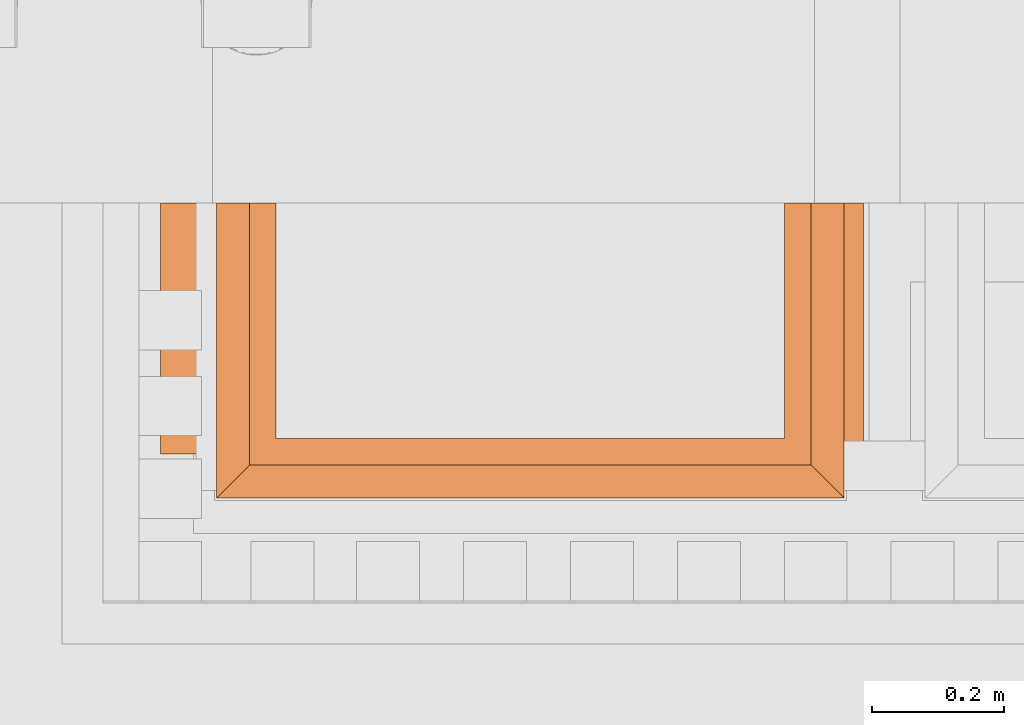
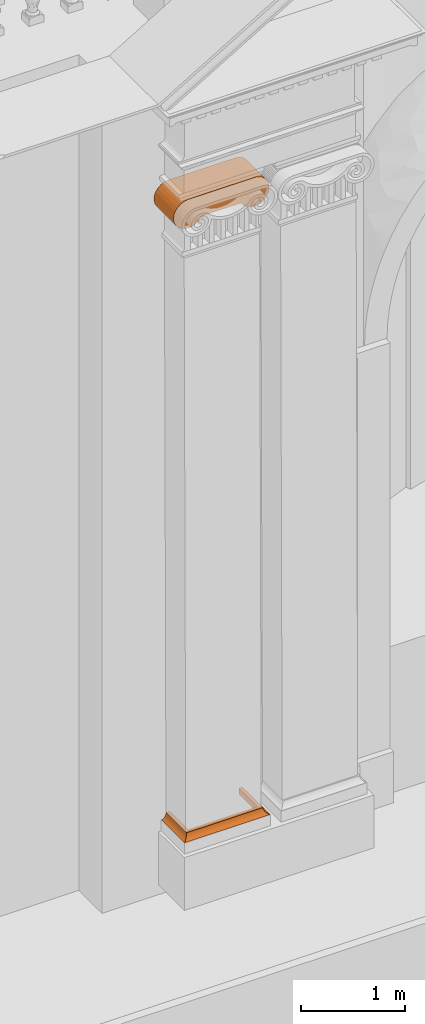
# One storey, part 27 of 44: 2 proxies.
"""IFC2X3 building model written with IfcOpenShell, lengths in metres."""

from ifc_helpers import new_model, entity, si_unit, converted_unit, derived_unit, direction, frame, origin, place, context, subcontext, project, spatial, faceted_brep, material, element, save


model = new_model("IFC2X3")

# Units and contexts
model_context = context("Model", 3, precision=1e-05, world=origin(), true_north=direction((6.12303176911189e-17, 1.0)))
body_context = subcontext(model_context, "Body", "Model", "MODEL_VIEW")
ifc_project = project(units=[si_unit("LENGTHUNIT", "METRE"), si_unit("AREAUNIT", "SQUARE_METRE"), si_unit("VOLUMEUNIT", "CUBIC_METRE"), converted_unit("PLANEANGLEUNIT", "DEGREE", entity("IfcRatioMeasure", 0.0174532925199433), si_unit("PLANEANGLEUNIT", "RADIAN"), dimensions=[0, 0, 0, 0, 0, 0, 0]), si_unit("MASSUNIT", "GRAM", prefix="KILO"), derived_unit("MASSDENSITYUNIT", [(si_unit("MASSUNIT", "GRAM", prefix="KILO"), 1), (si_unit("LENGTHUNIT", "METRE"), -3)]), si_unit("TIMEUNIT", "SECOND"), si_unit("FREQUENCYUNIT", "HERTZ"), si_unit("THERMODYNAMICTEMPERATUREUNIT", "DEGREE_CELSIUS"), derived_unit("THERMALTRANSMITTANCEUNIT", [(si_unit("MASSUNIT", "GRAM", prefix="KILO"), 1), (si_unit("THERMODYNAMICTEMPERATUREUNIT", "KELVIN"), -1), (si_unit("TIMEUNIT", "SECOND"), -3)]), derived_unit("VOLUMETRICFLOWRATEUNIT", [(si_unit("LENGTHUNIT", "METRE"), 3), (si_unit("TIMEUNIT", "SECOND"), -1)]), si_unit("ELECTRICCURRENTUNIT", "AMPERE"), si_unit("ELECTRICVOLTAGEUNIT", "VOLT"), si_unit("POWERUNIT", "WATT"), si_unit("FORCEUNIT", "NEWTON", prefix="KILO"), si_unit("ILLUMINANCEUNIT", "LUX"), si_unit("LUMINOUSFLUXUNIT", "LUMEN"), si_unit("LUMINOUSINTENSITYUNIT", "CANDELA"), derived_unit("USERDEFINED", [(si_unit("MASSUNIT", "GRAM", prefix="KILO"), -1), (si_unit("LENGTHUNIT", "METRE"), -2), (si_unit("TIMEUNIT", "SECOND"), 3), (si_unit("LUMINOUSFLUXUNIT", "LUMEN"), 1)]), derived_unit("LINEARVELOCITYUNIT", [(si_unit("LENGTHUNIT", "METRE"), 1), (si_unit("TIMEUNIT", "SECOND"), -1)]), si_unit("PRESSUREUNIT", "PASCAL"), derived_unit("USERDEFINED", [(si_unit("LENGTHUNIT", "METRE"), -2), (si_unit("MASSUNIT", "GRAM", prefix="KILO"), 1), (si_unit("TIMEUNIT", "SECOND"), -2)])], contexts=[model_context])

# Site, building, storey
site_placement = place(None, origin())
site = spatial("IfcSite", under=ifc_project, at=site_placement, Name="Default", CompositionType="ELEMENT")
building_placement = place(site_placement, origin())
building = spatial("IfcBuilding", under=site, at=building_placement, CompositionType="ELEMENT")
storey_placement = place(building_placement, origin())
storey = spatial("IfcBuildingStorey", under=building, at=storey_placement, Name="Livello 1", CompositionType="ELEMENT", Elevation=0.0)

# Proxies
ifc_material = material(Name="Travertino")
proxy_1_placement = place(storey_placement, frame((-4.94290918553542, 0.883372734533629, 21.2505882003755)))
element("IfcBuildingElementProxy", 1, at=proxy_1_placement, inside=storey, material=ifc_material, Name="Stratigrafia", context=body_context, shape_type="Brep", body=[
    faceted_brep([(0.202441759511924, 0.195, 0.00495230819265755), (0.202228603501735, 0.195, 0.00475895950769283), (0.219471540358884, 0.195, 0.00918128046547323), (0.236149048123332, 0.195, 0.0154051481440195), (0.235377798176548, 0.195, 0.0155005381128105), (0.234604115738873, 0.195, 0.0155817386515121), (0.23276441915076, 0.195, 0.0157169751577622), (0.230920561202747, 0.195, 0.0157713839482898), (0.228992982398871, 0.195, 0.0157417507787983), (0.227068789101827, 0.195, 0.0156237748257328), (0.225151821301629, 0.195, 0.0154176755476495), (0.223246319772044, 0.195, 0.015123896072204), (0.221437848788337, 0.195, 0.0147613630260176), (0.219647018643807, 0.195, 0.0143198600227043), (0.21684041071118, 0.195, 0.0134560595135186), (0.214100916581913, 0.195, 0.0123985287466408), (0.21130606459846, 0.195, 0.0110826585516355), (0.208615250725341, 0.195, 0.00956534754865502), (0.205538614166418, 0.195, 0.00748647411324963), (0.202656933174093, 0.195, 0.00514482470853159), (0.235311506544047, 0.14769119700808, 0.015508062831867), (0.234604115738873, 0.15122943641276, 0.0155817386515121), (0.23535053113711, 0.153479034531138, 0.0155036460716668), (0.235306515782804, 0.158497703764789, 0.0155086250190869), (0.236149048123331, 0.1625, 0.0154051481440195), (0.236149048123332, 0.1584375, 0.0154051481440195), (0.236149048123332, 0.154375, 0.0154051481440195), (0.23614904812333, 0.187923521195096, 0.0154051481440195), (0.235377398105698, 0.184385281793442, 0.0155005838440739), (0.235447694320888, 0.189692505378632, 0.0154924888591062), (0.235285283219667, 0.163523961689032, 0.0155110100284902), (0.234604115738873, 0.16747943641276, 0.0155817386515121), (0.235367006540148, 0.169772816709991, 0.0155017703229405), (0.234604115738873, 0.187923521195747, 0.0155817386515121), (0.236149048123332, 0.14625, 0.0154051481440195), (0.235377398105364, 0.140614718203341, 0.0155005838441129), (0.234604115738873, 0.144152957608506, 0.0155817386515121), (0.234604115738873, 0.137076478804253, 0.0155817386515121), (0.234604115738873, 0.182288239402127, 0.0155817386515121), (0.235392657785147, 0.17846167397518, 0.015498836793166), (0.234604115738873, 0.172066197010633, 0.0155817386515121), (0.236149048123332, 0.137076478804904, 0.0154051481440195), (0.235307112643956, 0.135307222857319, 0.0155085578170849), (0.236149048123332, 0.13, 0.0154051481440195), (0.23614904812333, 0.180847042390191, 0.0154051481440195), (0.23537779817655, 0.13, 0.0155005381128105), (0.234604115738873, 0.13, 0.0155817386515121), (0.234604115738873, 0.176652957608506, 0.0155817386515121), (0.234604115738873, 0.18084967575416, 0.0155817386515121), (0.23614904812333, 0.171673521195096, 0.0154051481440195), (0.234604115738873, 0.158305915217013, 0.0155817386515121), (0.234604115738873, 0.1625, 0.0155817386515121), (0.232764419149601, 0.151225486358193, 0.0157169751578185), (0.232651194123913, 0.1654432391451, 0.0157226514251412), (0.230920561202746, 0.158300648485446, 0.0157713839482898), (0.23276441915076, 0.13, 0.0157169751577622), (0.230920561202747, 0.13, 0.0157713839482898), (0.230920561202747, 0.144150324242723, 0.0157713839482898), (0.232764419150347, 0.181836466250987, 0.0157169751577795), (0.230920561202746, 0.180849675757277, 0.0157713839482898), (0.230920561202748, 0.1625, 0.0157713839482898), (0.228992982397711, 0.151224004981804, 0.015741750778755), (0.228865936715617, 0.166307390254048, 0.0157366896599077), (0.227068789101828, 0.158298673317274, 0.0156237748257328), (0.228992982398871, 0.13, 0.0157417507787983), (0.227068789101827, 0.13, 0.0156237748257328), (0.227068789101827, 0.144149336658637, 0.0156237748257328), (0.228992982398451, 0.181275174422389, 0.015741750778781), (0.227068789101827, 0.180850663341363, 0.0156237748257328), (0.227068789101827, 0.1625, 0.0156237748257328), (0.225151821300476, 0.151224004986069, 0.0154176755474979), (0.225025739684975, 0.16630961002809, 0.0154009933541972), (0.223246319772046, 0.15829867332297, 0.015123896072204), (0.225151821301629, 0.13, 0.0154176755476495), (0.223246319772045, 0.13, 0.015123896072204), (0.223246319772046, 0.144149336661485, 0.015123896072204), (0.225151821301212, 0.181273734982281, 0.0154176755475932), (0.223246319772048, 0.180850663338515, 0.015123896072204), (0.223246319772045, 0.1625, 0.015123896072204), (0.221437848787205, 0.15122548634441, 0.014761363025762), (0.221327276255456, 0.165441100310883, 0.0147365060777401), (0.219647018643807, 0.158300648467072, 0.0143198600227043), (0.221437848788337, 0.13, 0.0147613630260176), (0.219647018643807, 0.13, 0.0143198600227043), (0.219647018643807, 0.144150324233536, 0.0143198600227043), (0.221437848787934, 0.181837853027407, 0.0147613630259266), (0.219647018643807, 0.180849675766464, 0.0143198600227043), (0.219647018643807, 0.1625, 0.0143198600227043), (0.217295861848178, 0.150768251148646, 0.0136109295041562), (0.21684041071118, 0.13, 0.0134560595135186), (0.216694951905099, 0.171325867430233, 0.0134053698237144), (0.214100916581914, 0.158305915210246, 0.0123985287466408), (0.214100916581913, 0.166683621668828, 0.0123985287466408), (0.214100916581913, 0.13, 0.0123985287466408), (0.211306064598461, 0.13, 0.0110826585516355), (0.208615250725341, 0.13, 0.00956534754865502), (0.211427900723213, 0.154345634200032, 0.0111453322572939), (0.210711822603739, 0.174546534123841, 0.0107697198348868), (0.208615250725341, 0.1625, 0.00956534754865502), (0.208615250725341, 0.166667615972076, 0.00956534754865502), (0.202656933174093, 0.158332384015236, 0.00514482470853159), (0.202656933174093, 0.16046875, 0.00514482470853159), (0.202656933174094, 0.1625, 0.00514482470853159), (0.202656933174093, 0.164790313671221, 0.00514482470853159), (0.202656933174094, 0.167080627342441, 0.00514482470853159), (0.202656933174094, 0.169370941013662, 0.00514482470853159), (0.202656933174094, 0.171661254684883, 0.00514482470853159), (0.202656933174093, 0.173951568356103, 0.00514482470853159), (0.202656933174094, 0.176241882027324, 0.00514482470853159), (0.202656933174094, 0.178532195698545, 0.00514482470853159), (0.202656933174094, 0.180822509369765, 0.00514482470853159), (0.202656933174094, 0.184366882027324, 0.00514482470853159), (0.202656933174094, 0.187911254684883, 0.00514482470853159), (0.202656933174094, 0.191455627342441, 0.00514482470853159), (0.205631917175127, 0.15726318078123, 0.00755549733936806), (0.205538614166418, 0.13, 0.00748647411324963), (0.202656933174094, 0.13, 0.00514482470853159), (0.202656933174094, 0.133544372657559, 0.00514482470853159), (0.202656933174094, 0.135834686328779, 0.00514482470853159), (0.202656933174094, 0.138125, 0.00514482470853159), (0.202656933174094, 0.14015625, 0.00514482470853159), (0.202656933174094, 0.1421875, 0.00514482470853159), (0.202656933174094, 0.14421875, 0.00514482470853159), (0.202656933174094, 0.14625, 0.00514482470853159), (0.202656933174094, 0.14828125, 0.00514482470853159), (0.202656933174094, 0.1503125, 0.00514482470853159), (0.202656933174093, 0.15234375, 0.00514482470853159), (0.202656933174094, 0.154375, 0.00514482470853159), (0.202656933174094, 0.15640625, 0.00514482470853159), (0.202435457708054, 0.141578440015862, 0.00494662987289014), (0.202442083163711, 0.139378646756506, 0.00495259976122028), (0.202452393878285, 0.179677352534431, 0.00496188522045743), (0.202452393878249, 0.17738703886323, 0.00496188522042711), (0.202228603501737, 0.176677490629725, 0.00475895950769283), (0.202228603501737, 0.17896780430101, 0.00475895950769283), (0.202228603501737, 0.181258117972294, 0.00475895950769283), (0.202228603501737, 0.172096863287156, 0.00475895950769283), (0.202228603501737, 0.174387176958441, 0.00475895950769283), (0.202452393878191, 0.172806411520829, 0.00496188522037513), (0.202439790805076, 0.159500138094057, 0.00495053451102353), (0.202228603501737, 0.15835498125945, 0.00475895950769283), (0.202228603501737, 0.160645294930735, 0.00475895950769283), (0.202228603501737, 0.169806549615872, 0.00475895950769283), (0.202461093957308, 0.170711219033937, 0.00496971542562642), (0.2024332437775, 0.168631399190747, 0.0049446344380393), (0.202424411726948, 0.19160860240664, 0.00493667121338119), (0.202441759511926, 0.13, 0.00495230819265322), (0.202228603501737, 0.13, 0.00475895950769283), (0.202438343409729, 0.132344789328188, 0.00494923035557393), (0.202228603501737, 0.133544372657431, 0.00475895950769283), (0.202442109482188, 0.134689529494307, 0.00495262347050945), (0.202457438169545, 0.189405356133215, 0.00496642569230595), (0.202228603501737, 0.190419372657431, 0.00475895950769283), (0.202460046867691, 0.147464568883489, 0.00496877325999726), (0.202432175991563, 0.150380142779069, 0.00494367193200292), (0.202444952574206, 0.157042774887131, 0.00495518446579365), (0.202441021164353, 0.145234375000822, 0.00495164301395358), (0.202228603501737, 0.147721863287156, 0.00475895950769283), (0.202433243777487, 0.164050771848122, 0.00494463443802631), (0.202228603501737, 0.193227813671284, 0.00475895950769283), (0.202228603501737, 0.162935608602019, 0.00475895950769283), (0.202431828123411, 0.161790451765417, 0.00494335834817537), (0.202228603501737, 0.165225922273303, 0.00475895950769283), (0.202228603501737, 0.167516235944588, 0.00475895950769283), (0.202431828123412, 0.166371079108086, 0.00494335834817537), (0.202228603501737, 0.154810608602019, 0.00475895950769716), (0.202451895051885, 0.181922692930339, 0.00496143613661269), (0.202450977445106, 0.175126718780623, 0.00496060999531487), (0.202458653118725, 0.136979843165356, 0.0049675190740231), (0.202228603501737, 0.185838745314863, 0.00475895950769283), (0.202435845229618, 0.186993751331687, 0.00494697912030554), (0.202426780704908, 0.184693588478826, 0.00493880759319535), (0.202452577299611, 0.154996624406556, 0.00496205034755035), (0.202228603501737, 0.151266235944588, 0.00475895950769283), (0.202431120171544, 0.152959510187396, 0.00494272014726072), (0.202228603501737, 0.183548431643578, 0.00475895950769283), (0.202228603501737, 0.188129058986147, 0.00475895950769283), (0.202228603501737, 0.140633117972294, 0.00475895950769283), (0.202228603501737, 0.137088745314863, 0.0047589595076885), (0.202228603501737, 0.144177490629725, 0.00475895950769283), (0.202228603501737, 0.149494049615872, 0.00475895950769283), (1.0616159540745, 0.0, 0.204508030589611), (1.04705822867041, 0.0, 0.245490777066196), (1.02245795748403, 0.0, 0.281356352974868), (0.989467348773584, 0.0, 0.309695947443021), (0.950302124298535, 0.0, 0.328606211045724), (0.907592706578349, 0.0, 0.336817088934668), (0.159155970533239, 0.0, 0.336817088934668), (0.116446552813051, 0.0, 0.328606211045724), (0.0772813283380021, 0.0, 0.309695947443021), (0.0442907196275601, 0.0, 0.281356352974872), (0.0196904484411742, 0.0, 0.245490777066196), (0.00513272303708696, 0.0, 0.204508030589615), (0.0015952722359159, 0.0, 0.161160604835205), (0.00931567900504, 0.0, 0.118359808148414), (0.0277754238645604, 0.0, 0.0789802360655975), (0.0557347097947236, 0.0, 0.0456667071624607), (0.0913157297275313, 0.0, 0.0206566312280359), (0.132128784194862, 0.0, 0.00562973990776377), (0.175432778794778, 0.0, 0.0015952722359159), (0.196876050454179, 0.0, 0.00520973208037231), (0.218319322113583, 0.0, 0.00882419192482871), (0.238113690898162, 0.0, 0.0178275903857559), (0.257908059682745, 0.0, 0.0268309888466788), (0.291540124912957, 0.0, 0.0544062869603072), (0.316956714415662, 0.0, 0.0896980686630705), (0.749791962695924, 0.0, 0.0896980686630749), (0.775208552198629, 0.0, 0.0544062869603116), (0.80884061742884, 0.0, 0.0268309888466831), (0.848429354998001, 0.0, 0.00882419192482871), (0.891315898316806, 0.0, 0.0015952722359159), (0.934619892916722, 0.0, 0.00562973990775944), (0.975432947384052, 0.0, 0.0206566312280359), (1.01101396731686, 0.0, 0.0456667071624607), (1.03897325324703, 0.0, 0.0789802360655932), (1.05743299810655, 0.0, 0.118359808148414), (1.06515340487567, 0.0, 0.161160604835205), (0.00513272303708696, 0.38, 0.204508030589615), (0.0196904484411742, 0.38, 0.245490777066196), (0.0442907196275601, 0.38, 0.281356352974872), (0.0772813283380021, 0.38, 0.309695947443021), (0.116446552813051, 0.38, 0.328606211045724), (0.159155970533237, 0.38, 0.336817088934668), (0.907592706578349, 0.38, 0.336817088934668), (0.950302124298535, 0.38, 0.328606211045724), (0.989467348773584, 0.38, 0.309695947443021), (1.02245795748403, 0.38, 0.281356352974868), (1.04705822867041, 0.38, 0.245490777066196), (1.0616159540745, 0.38, 0.204508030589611), (1.06515340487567, 0.38, 0.161160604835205), (1.05743299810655, 0.38, 0.118359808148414), (1.03897325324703, 0.38, 0.0789802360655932), (1.01101396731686, 0.38, 0.0456667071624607), (0.975432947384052, 0.38, 0.0206566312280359), (0.934619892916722, 0.38, 0.00562973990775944), (0.891315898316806, 0.38, 0.0015952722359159), (0.848429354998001, 0.38, 0.00882419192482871), (0.80884061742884, 0.38, 0.0268309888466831), (0.775208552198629, 0.38, 0.0544062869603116), (0.749791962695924, 0.38, 0.0896980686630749), (0.316956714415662, 0.38, 0.0896980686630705), (0.291540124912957, 0.38, 0.0544062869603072), (0.257908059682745, 0.38, 0.0268309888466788), (0.218319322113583, 0.38, 0.00882419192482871), (0.175432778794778, 0.38, 0.0015952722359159), (0.132128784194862, 0.38, 0.00562973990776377), (0.0913157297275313, 0.38, 0.0206566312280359), (0.0557347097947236, 0.38, 0.0456667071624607), (0.0277754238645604, 0.38, 0.0789802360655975), (0.00931567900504, 0.38, 0.118359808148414), (0.0015952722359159, 0.38, 0.161160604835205), (0.21947154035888, 0.13, 0.00918128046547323)], [[[0, 1, 2, 3, 4, 5, 6, 7, 8, 9, 10, 11, 12, 13, 14, 15, 16, 17, 18, 19]], [[20, 21, 22]], [[23, 24, 25, 26]], [[27, 28, 29]], [[30, 31, 32]], [[28, 33, 29]], [[20, 34, 35]], [[36, 35, 37]], [[38, 33, 28]], [[38, 28, 39]], [[31, 40, 32]], [[32, 24, 30]], [[35, 41, 42]], [[20, 22, 26]], [[29, 33, 5]], [[42, 41, 43]], [[44, 28, 27]], [[41, 35, 34]], [[29, 4, 3]], [[42, 45, 46]], [[44, 39, 28]], [[21, 20, 36]], [[39, 40, 47, 48, 38]], [[37, 35, 42]], [[39, 44, 49]], [[49, 24, 32]], [[39, 32, 40]], [[49, 32, 39]], [[30, 50, 51, 31]], [[36, 20, 35]], [[34, 20, 26]], [[24, 23, 30]], [[22, 21, 50]], [[50, 30, 23]], [[27, 29, 3]], [[5, 4, 29]], [[37, 42, 46]], [[43, 45, 42]], [[23, 22, 50]], [[26, 22, 23]], [[52, 53, 51]], [[54, 52, 55, 56, 57]], [[58, 59, 7, 6]], [[58, 6, 5, 33, 38, 48]], [[36, 37, 46, 55, 52, 51, 50, 21]], [[53, 58, 48]], [[54, 53, 52]], [[53, 48, 47, 40, 31, 51]], [[53, 54, 60, 59]], [[59, 58, 53]], [[61, 62, 60]], [[63, 61, 64, 65, 66]], [[67, 68, 9, 8]], [[67, 8, 7, 59]], [[57, 56, 64, 61, 60, 54]], [[62, 67, 59]], [[63, 62, 61]], [[60, 62, 59]], [[62, 63, 69, 68]], [[68, 67, 62]], [[70, 71, 69]], [[72, 70, 73, 74, 75]], [[76, 77, 11, 10]], [[76, 10, 9, 68]], [[66, 65, 73, 70, 69, 63]], [[71, 76, 68]], [[72, 71, 70]], [[69, 71, 68]], [[71, 72, 78, 77]], [[77, 76, 71]], [[79, 80, 78]], [[81, 79, 82, 83, 84]], [[85, 86, 13, 12]], [[85, 12, 11, 77]], [[75, 74, 82, 79, 78, 72]], [[80, 85, 77]], [[81, 80, 79]], [[78, 80, 77]], [[80, 81, 87, 86]], [[86, 85, 80]], [[88, 87, 81, 84, 83]], [[89, 88, 83]], [[88, 90, 87]], [[90, 91, 92, 15]], [[90, 14, 13]], [[88, 89, 93]], [[88, 93, 91]], [[14, 90, 15]], [[90, 88, 91]], [[90, 13, 86, 87]], [[94, 95, 96]], [[16, 97, 17]], [[97, 96, 98]], [[97, 98, 99, 17]], [[96, 92, 91, 93]], [[96, 95, 98]], [[97, 15, 92]], [[94, 96, 93]], [[96, 97, 92]], [[97, 16, 15]], [[18, 100, 101, 102, 103, 104, 105, 106, 107, 108, 109, 110, 111, 112, 113, 19]], [[114, 100, 18]], [[115, 114, 95]], [[114, 99, 98, 95]], [[114, 116, 117, 118, 119, 120, 121, 122, 123, 124, 125, 126, 127, 128, 100]], [[99, 114, 18]], [[114, 115, 116]], [[18, 17, 99]], [[129, 120, 130]], [[131, 132, 133, 134, 135]], [[136, 137, 138]], [[139, 140, 141]], [[142, 143, 144]], [[145, 0, 19]], [[146, 147, 148]], [[148, 149, 150]], [[151, 152, 145]], [[153, 154, 124]], [[155, 140, 139]], [[109, 108, 132, 131, 110]], [[107, 106, 138]], [[153, 156, 157]], [[102, 158, 103]], [[105, 104, 144]], [[159, 1, 0]], [[141, 160, 161]], [[162, 163, 164]], [[155, 165, 140]], [[166, 110, 131]], [[133, 167, 137]], [[150, 117, 148]], [[106, 105, 143]], [[101, 100, 139]], [[148, 117, 116]], [[118, 150, 168]], [[136, 138, 143]], [[169, 170, 171]], [[155, 128, 172]], [[101, 139, 161]], [[0, 145, 159]], [[161, 102, 101]], [[104, 103, 164]], [[154, 173, 174]], [[100, 155, 139]], [[172, 174, 165]], [[141, 161, 139]], [[161, 160, 158]], [[164, 163, 144]], [[158, 102, 161]], [[144, 104, 164]], [[158, 164, 103]], [[132, 108, 167]], [[167, 133, 132]], [[167, 138, 137]], [[111, 166, 171]], [[158, 160, 162]], [[144, 163, 142]], [[162, 164, 158]], [[138, 106, 143]], [[167, 108, 107]], [[107, 138, 167]], [[142, 136, 143]], [[111, 171, 170]], [[135, 166, 131]], [[166, 111, 110]], [[175, 171, 166]], [[169, 171, 175]], [[166, 135, 175]], [[112, 111, 170]], [[112, 170, 151]], [[170, 176, 151]], [[151, 113, 112]], [[113, 151, 145]], [[152, 151, 176]], [[170, 169, 176]], [[144, 143, 105]], [[19, 113, 145]], [[145, 152, 159]], [[130, 177, 129]], [[122, 121, 120, 129]], [[118, 117, 150]], [[168, 178, 130]], [[155, 100, 128]], [[129, 179, 156]], [[127, 172, 128]], [[168, 119, 118]], [[150, 149, 178]], [[149, 148, 147]], [[116, 146, 148]], [[119, 168, 130]], [[178, 168, 150]], [[177, 130, 178]], [[122, 156, 123]], [[129, 177, 179]], [[129, 156, 122]], [[123, 156, 153]], [[156, 179, 157]], [[125, 124, 154, 126]], [[157, 180, 153]], [[180, 154, 153]], [[154, 180, 173]], [[174, 126, 154]], [[127, 174, 172]], [[174, 173, 165]], [[124, 123, 153]], [[120, 119, 130]], [[174, 127, 126]], [[155, 172, 165]], [[181, 182, 183, 184, 185, 186, 187, 188, 189, 190, 191, 192, 193, 194, 195, 196, 197, 198, 199, 200, 201, 202, 203, 204, 205, 206, 207, 208, 209, 210, 211, 212, 213, 214, 215, 216]], [[217, 218, 219, 220, 221, 222, 223, 224, 225, 226, 227, 228, 229, 230, 231, 232, 233, 234, 235, 236, 237, 238, 239, 240, 241, 242, 243, 244, 245, 246, 247, 248, 249, 250]], [[189, 220, 219, 190]], [[187, 222, 221, 188]], [[220, 189, 188, 221]], [[190, 219, 218, 191]], [[249, 248, 195, 194]], [[192, 217, 250, 193]], [[193, 250, 249, 194]], [[218, 217, 192, 191]], [[195, 248, 247, 196]], [[247, 246, 197, 196]], [[244, 243, 1]], [[197, 246, 245, 198]], [[244, 199, 198, 245]], [[1, 159, 152, 176, 169, 175, 135, 134, 133, 137, 136, 142, 163, 162, 160, 141, 140, 165, 173, 180, 157, 179, 177, 178, 149, 147, 199, 244]], [[243, 2, 1]], [[203, 242, 241, 204]], [[243, 3, 2]], [[3, 243, 242]], [[203, 43, 41, 34, 26, 25, 24, 49, 44, 27, 3, 242]], [[147, 201, 200, 199]], [[241, 240, 205, 204]], [[147, 251, 201]], [[43, 203, 202, 201]], [[43, 201, 251]], [[206, 205, 240, 239]], [[208, 237, 236, 209]], [[207, 238, 237, 208]], [[209, 236, 235, 210]], [[233, 232, 213, 212]], [[211, 234, 233, 212]], [[210, 235, 234, 211]], [[213, 232, 231, 214]], [[239, 238, 207, 206]], [[216, 229, 228, 181]], [[215, 230, 229, 216]], [[181, 228, 227, 182]], [[225, 224, 185, 184]], [[183, 226, 225, 184]], [[182, 227, 226, 183]], [[185, 224, 223, 186]], [[214, 231, 230, 215]], [[187, 186, 223, 222]], [[65, 64, 56, 55, 46, 45, 43, 251, 147, 146, 116, 115, 95, 94, 93, 89, 83, 82, 74, 73]]]),
])
proxy_2_placement = place(storey_placement, frame((-4.85792467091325, 0.815415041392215, 14.0944886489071)))
element("IfcBuildingElementProxy", 2, at=proxy_2_placement, inside=storey, Name="Stratigrafia", context=body_context, shape_type="Brep", body=[
    faceted_brep([(0.860981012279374, 0.447957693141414, 0.0015952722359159), (0.860981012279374, 0.447957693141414, 0.0725246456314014), (0.900981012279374, 0.447957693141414, 0.0725246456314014), (0.90198435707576, 0.447957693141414, 0.057057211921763), (0.906320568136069, 0.447957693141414, 0.0421761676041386), (0.913782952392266, 0.447957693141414, 0.028590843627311), (0.924015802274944, 0.447957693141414, 0.0169488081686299), (0.936531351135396, 0.447957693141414, 0.00780499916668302), (0.950733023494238, 0.447957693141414, 0.0015952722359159), (0.0015952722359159, 0.447957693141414, 0.0015952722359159), (0.0157969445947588, 0.447957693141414, 0.00780499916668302), (0.0283124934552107, 0.447957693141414, 0.0169488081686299), (0.038545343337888, 0.447957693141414, 0.028590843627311), (0.0460077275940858, 0.447957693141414, 0.0421761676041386), (0.0503439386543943, 0.447957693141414, 0.057057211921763), (0.0513472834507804, 0.447957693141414, 0.0725246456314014), (0.0913472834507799, 0.447957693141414, 0.0725246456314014), (0.0913472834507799, 0.447957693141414, 0.0015952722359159), (0.90198435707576, 0.0503439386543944, 0.057057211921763), (0.906320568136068, 0.0460077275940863, 0.0421761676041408), (0.913782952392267, 0.0385453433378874, 0.028590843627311), (0.900981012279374, 0.0513472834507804, 0.0725246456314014), (0.924015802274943, 0.0283124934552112, 0.0169488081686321), (0.936531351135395, 0.0157969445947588, 0.00780499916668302), (0.950733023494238, 0.00159527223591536, 0.0015952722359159), (0.590003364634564, 0.00159527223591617, 0.0015952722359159), (0.0015952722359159, 0.00159527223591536, 0.0015952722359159), (0.0913472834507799, 0.0913472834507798, 0.0015952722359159), (0.860981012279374, 0.0913472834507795, 0.0015952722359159), (0.860981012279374, 0.0913472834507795, 0.0725246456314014), (0.0513472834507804, 0.0513472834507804, 0.0725246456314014), (0.312572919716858, 0.0513472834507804, 0.0725246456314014), (0.0913472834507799, 0.0913472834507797, 0.0725246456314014), (0.572423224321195, 0.0334274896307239, 0.0221280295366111), (0.0157969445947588, 0.0157969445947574, 0.00780499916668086), (0.476164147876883, 0.0424788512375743, 0.0348723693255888), (0.0503439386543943, 0.0503439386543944, 0.057057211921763), (0.476164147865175, 0.0502370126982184, 0.0564642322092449), (0.476164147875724, 0.0218065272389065, 0.0116734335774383), (0.0460077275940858, 0.0460077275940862, 0.0421761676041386), (0.0283124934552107, 0.0283124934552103, 0.0169488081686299), (0.038545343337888, 0.0385453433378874, 0.028590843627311)], [[[0, 1, 2, 3, 4, 5, 6, 7, 8]], [[9, 10, 11, 12, 13, 14, 15, 16, 17]], [[4, 3, 18, 19]], [[5, 4, 19, 20]], [[21, 18, 3, 2]], [[7, 6, 22, 23]], [[8, 7, 23, 24]], [[6, 5, 20, 22]], [[0, 8, 24, 25, 26, 9, 17, 27, 28]], [[1, 0, 28, 29]], [[16, 15, 30, 31, 21, 2, 1, 29, 32]], [[33, 22, 20]], [[25, 34, 26]], [[23, 25, 24]], [[19, 35, 20]], [[31, 36, 37]], [[31, 37, 21]], [[23, 38, 25]], [[18, 21, 37]], [[39, 37, 36]], [[38, 40, 34]], [[18, 37, 19]], [[37, 35, 19]], [[35, 37, 39]], [[35, 33, 20]], [[38, 34, 25]], [[36, 31, 30]], [[41, 40, 33]], [[38, 33, 40]], [[41, 33, 35]], [[38, 23, 22]], [[35, 39, 41]], [[38, 22, 33]], [[29, 28, 27, 32]], [[12, 41, 39, 13]], [[13, 39, 36, 14]], [[14, 36, 30, 15]], [[9, 26, 34, 10]], [[10, 34, 40, 11]], [[12, 11, 40, 41]], [[32, 27, 17, 16]]]),
])

save(model, "model.ifc")
